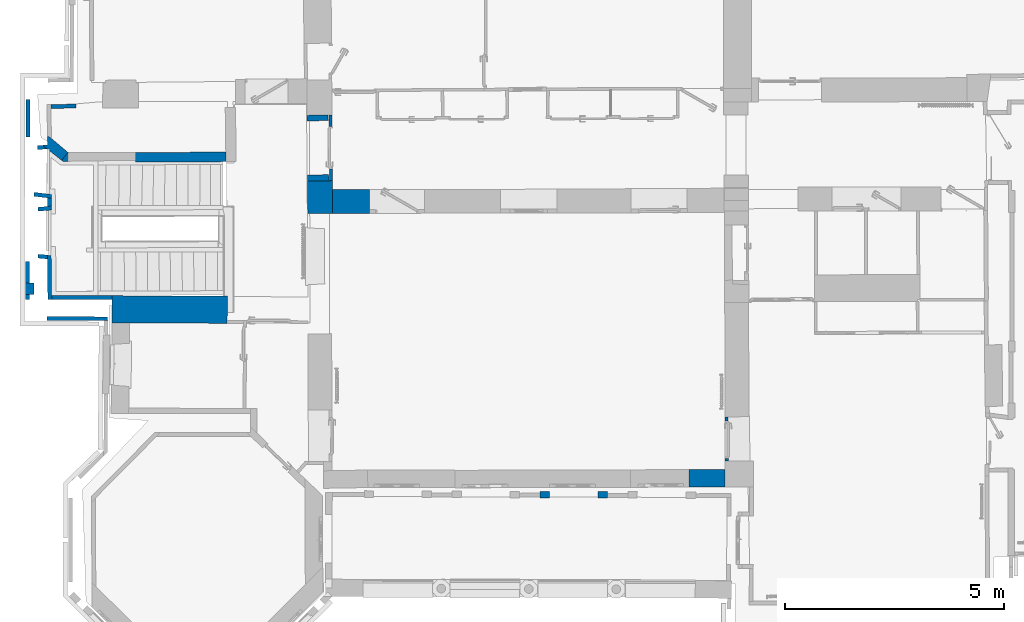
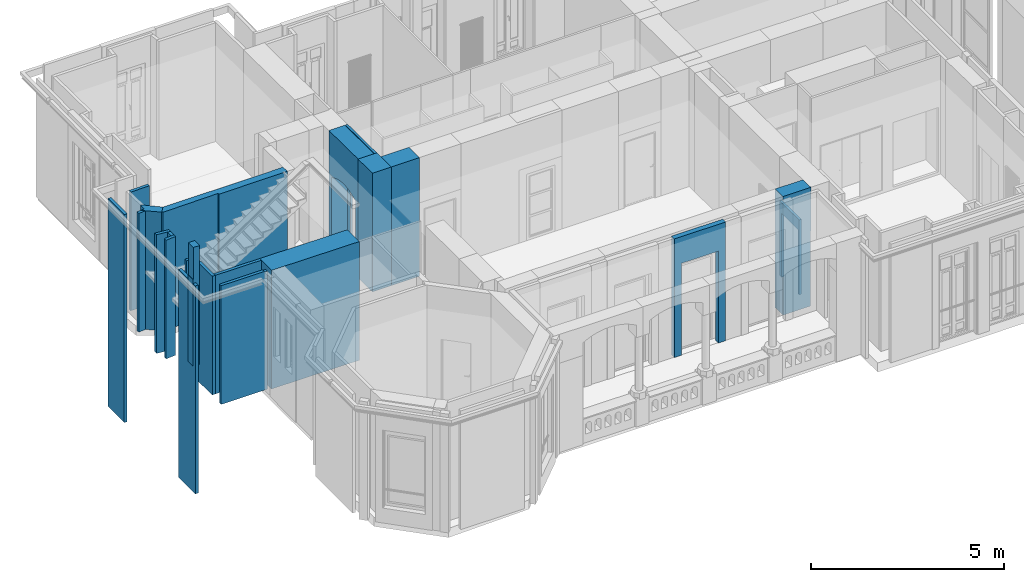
# One storey, part 7 of 66: 22 walls, 4 openings.
"""IFC2X3 building model written with IfcOpenShell, lengths in centimetres."""

import ifcopenshell
import ifcopenshell.guid

model = None  # the IFC model being written
_history = None  # IfcOwnerHistory: only IFC2X3 demands one
_inside = {}  # id of a spatial element -> (the spatial element, [elements in it])
_under = {}  # id of a project, library or spatial element -> (it, [spatial elements below it])
_declared = {}  # id of a project -> (the project, [libraries it declares])
_typed = {}  # id of a type object -> (the type object, [elements of that type])
_made_of = {}  # id of a material, layer set ... -> (it, [elements and type objects made of it])


def new_model(schema):
    """Start an empty IFC model of exactly this schema.

    Asked for "IFC4X3", IfcOpenShell would pick the latest addendum, in which some entities
    have other attributes; the version numbers below select the first issue.
    IFC2X3 requires an IfcOwnerHistory on every rooted entity: one is made here for all.
    """
    global model, _history
    if schema == "IFC4X3":
        model = ifcopenshell.file(schema_version=(4, 3, 0, 0))
    else:
        model = ifcopenshell.file(schema=schema)
    _inside.clear()
    _under.clear()
    _declared.clear()
    _typed.clear()
    _made_of.clear()
    _history = None
    if model.schema == "IFC2X3":
        org = make("IfcOrganization", Name="unknown")
        user = make(
            "IfcPersonAndOrganization",
            ThePerson=make("IfcPerson", FamilyName="unknown"),
            TheOrganization=org,
        )
        app = make(
            "IfcApplication",
            ApplicationDeveloper=org,
            Version="unknown",
            ApplicationFullName="unknown",
            ApplicationIdentifier="unknown",
        )
        _history = make(
            "IfcOwnerHistory",
            OwningUser=user,
            OwningApplication=app,
            ChangeAction="ADDED",
            CreationDate=0,
        )
    return model


def make(cls, **values):
    """One entity of the class cls with the attributes given. An attribute that is None is left unset."""
    return model.create_entity(
        cls, **{name: value for name, value in values.items() if value is not None}
    )


def entity(cls, *values):
    """Any entity or typed value of the class cls, its attributes in the order of the schema. None: left unset."""
    e = model.create_entity(cls)
    for i, value in enumerate(values):
        if value is not None:
            e[i] = value
    return e


def rooted(cls, **values):
    """An entity with a GlobalId (a new one), such as an element, a storey or a relation."""
    return make(cls, GlobalId=ifcopenshell.guid.new(), OwnerHistory=_history, **values)


def si_unit(unit_type, name, prefix=None):
    """IfcSIUnit, for example si_unit("LENGTHUNIT", "METRE", prefix="MILLI")."""
    return make("IfcSIUnit", UnitType=unit_type, Prefix=prefix, Name=name)


def converted_unit(unit_type, name, factor, base, dimensions=None, offset=None):
    """IfcConversionBasedUnit, such as the inch: factor (a typed value) times the base unit."""
    return make(
        "IfcConversionBasedUnit"
        if offset is None
        else "IfcConversionBasedUnitWithOffset",
        ConversionOffset=offset,
        Dimensions=None
        if dimensions is None
        else entity("IfcDimensionalExponents", *dimensions),
        UnitType=unit_type,
        Name=name,
        ConversionFactor=make(
            "IfcMeasureWithUnit", ValueComponent=factor, UnitComponent=base
        ),
    )


def assignment(units):
    """IfcUnitAssignment: the units of a project."""
    return None if units is None else make("IfcUnitAssignment", Units=units)


def point(xyz):
    """IfcCartesianPoint."""
    return None if xyz is None else make("IfcCartesianPoint", Coordinates=xyz)


def direction(xyz):
    """IfcDirection."""
    return None if xyz is None else make("IfcDirection", DirectionRatios=xyz)


def frame(location, z_axis=None, x_axis=None):
    """IfcAxis2Placement3D, a coordinate frame: its origin and axes. An axis left out is left unset."""
    return make(
        "IfcAxis2Placement3D",
        Location=point(location),
        Axis=direction(z_axis),
        RefDirection=direction(x_axis),
    )


def frame_2d(location, x_axis=None):
    """IfcAxis2Placement2D, a coordinate frame in the plane: its origin and x axis."""
    return make(
        "IfcAxis2Placement2D", Location=point(location), RefDirection=direction(x_axis)
    )


def origin():
    """The frame at (0, 0, 0) with its axes left unset."""
    return frame((0.0, 0.0, 0.0))


def origin_with_axes():
    """The frame at (0, 0, 0) with the z axis (0, 0, 1) and the x axis (1, 0, 0) written out."""
    return frame((0.0, 0.0, 0.0), z_axis=(0.0, 0.0, 1.0), x_axis=(1.0, 0.0, 0.0))


def origin_2d_with_axis():
    """The frame at (0, 0) in the plane with the x axis (1, 0) written out."""
    return frame_2d((0.0, 0.0), x_axis=(1.0, 0.0))


def place(relative_to, where):
    """IfcLocalPlacement: puts the frame where relative to a parent placement (None: the world)."""
    return make(
        "IfcLocalPlacement", PlacementRelTo=relative_to, RelativePlacement=where
    )


def context(
    kind, dimensions, precision=None, world=None, true_north=None, identifier=None
):
    """IfcGeometricRepresentationContext, for example the 3D "Model" context."""
    return make(
        "IfcGeometricRepresentationContext",
        ContextIdentifier=identifier,
        ContextType=kind,
        CoordinateSpaceDimension=dimensions,
        Precision=precision,
        WorldCoordinateSystem=world,
        TrueNorth=true_north,
    )


def subcontext(parent, identifier, kind, view, scale=None):
    """IfcGeometricRepresentationSubContext, for example "Body" below "Model"."""
    return make(
        "IfcGeometricRepresentationSubContext",
        ContextIdentifier=identifier,
        ContextType=kind,
        ParentContext=parent,
        TargetScale=scale,
        TargetView=view,
    )


def project(units=None, contexts=None):
    """IfcProject with its units and contexts."""
    return rooted(
        "IfcProject",
        Name="project",
        RepresentationContexts=contexts,
        UnitsInContext=assignment(units),
    )


def spatial(cls, under=None, at=None, **own):
    """A site, building, storey or space (cls), placed at a placement, below another one or the project."""
    s = rooted(cls, ObjectPlacement=at, **own)
    if under is not None:
        _under.setdefault(under.id(), (under, []))[1].append(s)
    return s


def polyline(points):
    """IfcPolyline through the points."""
    return make("IfcPolyline", Points=[point(p) for p in points])


def circle_curve(where, radius):
    """IfcCircle in the frame where."""
    return make("IfcCircle", Position=where, Radius=radius)


def trimmed(basis, trim1, trim2, sense, master):
    """IfcTrimmedCurve: the piece of a basis curve between two trims."""
    return make(
        "IfcTrimmedCurve",
        BasisCurve=basis,
        Trim1=trim1,
        Trim2=trim2,
        SenseAgreement=sense,
        MasterRepresentation=master,
    )


def segment(curve, same_sense, transition):
    """IfcCompositeCurveSegment."""
    return make(
        "IfcCompositeCurveSegment",
        Transition=transition,
        SameSense=same_sense,
        ParentCurve=curve,
    )


def composite_curve(segments, self_intersect=None):
    """IfcCompositeCurve: segments joined end to end."""
    return make("IfcCompositeCurve", Segments=segments, SelfIntersect=self_intersect)


def profile(cls, at=None, kind="AREA", **sizes):
    """A parametric profile (cls). Its sizes go by their IFC names, for example OverallWidth=200.0."""
    return make(cls, ProfileType=kind, Position=at, **sizes)


def rectangle(**sizes):
    """IfcRectangleProfileDef."""
    return profile("IfcRectangleProfileDef", **sizes)


def outline(outer, holes=None, kind="AREA"):
    """IfcArbitraryClosedProfileDef: a profile drawn as a closed curve; with holes, ...WithVoids."""
    if holes is None:
        return make("IfcArbitraryClosedProfileDef", ProfileType=kind, OuterCurve=outer)
    return make(
        "IfcArbitraryProfileDefWithVoids",
        ProfileType=kind,
        OuterCurve=outer,
        InnerCurves=holes,
    )


def extrude(swept, where, along, depth):
    """IfcExtrudedAreaSolid: the profile swept, set in the frame where, extruded along a direction by depth."""
    return make(
        "IfcExtrudedAreaSolid",
        SweptArea=swept,
        Position=where,
        ExtrudedDirection=direction(along),
        Depth=depth,
    )


def clip(a, b, op="DIFFERENCE"):
    """IfcBooleanClippingResult: the solid a cut by the half space b."""
    return make(
        "IfcBooleanClippingResult", Operator=op, FirstOperand=a, SecondOperand=b
    )


def bounded_halfspace(plane, agree, where, boundary):
    """IfcPolygonalBoundedHalfSpace: a half space limited to a polygon's prism."""
    return make(
        "IfcPolygonalBoundedHalfSpace",
        BaseSurface=make("IfcPlane", Position=plane),
        AgreementFlag=agree,
        Position=where,
        PolygonalBoundary=boundary,
    )


def shape(context_of_items, identifier, shape_type, items):
    """IfcShapeRepresentation: the items that make up one representation, for example the "Body"."""
    return make(
        "IfcShapeRepresentation",
        ContextOfItems=context_of_items,
        RepresentationIdentifier=identifier,
        RepresentationType=shape_type,
        Items=items,
    )


def material(Name=None, Category=None):
    """IfcMaterial."""
    return make("IfcMaterial", Name=Name, Category=Category)


def layer(
    of_material, thickness, ventilated=None, Name=None, Category=None, Priority=None
):
    """IfcMaterialLayer: one layer of a wall or slab, of a material (None: an air gap)."""
    return make(
        "IfcMaterialLayer",
        Material=of_material,
        LayerThickness=thickness,
        IsVentilated=ventilated,
        Name=Name,
        Category=Category,
        Priority=Priority,
    )


def layer_set(layers, Name=None):
    """IfcMaterialLayerSet."""
    return make("IfcMaterialLayerSet", MaterialLayers=layers, LayerSetName=Name)


def layer_usage(for_layer_set, set_direction, sense, offset, extent=None):
    """IfcMaterialLayerSetUsage: how a layer set lies in its element."""
    return make(
        "IfcMaterialLayerSetUsage",
        ForLayerSet=for_layer_set,
        LayerSetDirection=set_direction,
        DirectionSense=sense,
        OffsetFromReferenceLine=offset,
        ReferenceExtent=extent,
    )


def made_of(thing, what):
    """Note that an element or type object is made of a material, layer set ...; save() writes the relation."""
    if what is not None:
        _made_of.setdefault(what.id(), (what, []))[1].append(thing)
    return thing


def type_object(cls, material=None, **own):
    """A type object (cls), such as IfcWallType, which elements share."""
    return made_of(rooted(cls, **own), material)


def element(
    cls,
    number,
    at=None,
    inside=None,
    cuts=None,
    type_object=None,
    material=None,
    context=None,
    identifier="Body",
    shape_type=None,
    held_by="IfcProductDefinitionShape",
    body=None,
    shapes=None,
    **own,
):
    """One element of the class cls, such as IfcWall. Its Tag is "e" and its number.

    at: its placement. inside: the storey or other place that contains it. cuts: it is an
    opening in that element (IfcRelVoidsElement). A single representation is given by context,
    identifier, shape_type and body (its items); several are given by shapes. held_by: the class
    of the entity that holds the representations. save() writes the other relations.
    """
    e = rooted(cls, Tag="e%d" % number, ObjectPlacement=at, **own)
    if body is not None:
        shapes = [shape(context, identifier, shape_type, body)]
    if shapes is not None:
        e.Representation = make(held_by, Representations=shapes)
    if inside is not None:
        _inside.setdefault(inside.id(), (inside, []))[1].append(e)
    if cuts is not None:
        rooted(
            "IfcRelVoidsElement", RelatingBuildingElement=cuts, RelatedOpeningElement=e
        )
    if type_object is not None:
        _typed.setdefault(type_object.id(), (type_object, []))[1].append(e)
    return made_of(e, material)


def aggregate(whole, parts):
    """IfcRelAggregates: a whole, such as a stair, and the parts it consists of."""
    return rooted("IfcRelAggregates", RelatingObject=whole, RelatedObjects=parts)


def save(model, path):
    """Write the relations noted so far, then the file.

    IfcRelAggregates (storeys below a building ...), IfcRelContainedInSpatialStructure (elements
    in a storey), IfcRelDefinesByType, IfcRelAssociatesMaterial and IfcRelDeclares: one each for
    every whole, place, type object, material and project.
    """
    for whole, parts in _under.values():
        aggregate(whole, parts)
    for where, things in _inside.values():
        rooted(
            "IfcRelContainedInSpatialStructure",
            RelatedElements=things,
            RelatingStructure=where,
        )
    for kind, things in _typed.values():
        rooted("IfcRelDefinesByType", RelatedObjects=things, RelatingType=kind)
    for what, things in _made_of.values():
        rooted("IfcRelAssociatesMaterial", RelatedObjects=things, RelatingMaterial=what)
    for by, libraries in _declared.values():
        rooted("IfcRelDeclares", RelatingContext=by, RelatedDefinitions=libraries)
    model.write(path)


model = new_model("IFC2X3")

# Units and contexts
model_context = context("Model", 3, precision=0.0001, world=origin(), true_north=direction((0.225632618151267, 0.974212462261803, 0.0)))
body_context = subcontext(model_context, "Body", "Model", "MODEL_VIEW")
footprint_context = subcontext(model_context, "FootPrint", "Model", "MODEL_VIEW")
profile_context = subcontext(model_context, "Profile", "Model", "MODEL_VIEW")
ifc_project = project(units=[si_unit("LENGTHUNIT", "METRE", prefix="CENTI"), si_unit("AREAUNIT", "SQUARE_METRE", prefix="CENTI"), si_unit("VOLUMEUNIT", "CUBIC_METRE", prefix="CENTI"), converted_unit("PLANEANGLEUNIT", "DEGREE", entity("IfcRatioMeasure", 0.0174532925), si_unit("PLANEANGLEUNIT", "RADIAN"), dimensions=[0, 0, 0, 0, 0, 0, 0])], contexts=[model_context])

# Site, building, storey
site_placement = place(None, origin_with_axes())
site = spatial("IfcSite", under=ifc_project, at=site_placement, Name="Default Site", CompositionType="ELEMENT")
building_placement = place(site_placement, origin_with_axes())
building = spatial("IfcBuilding", under=site, at=building_placement, Name="Default Building", CompositionType="ELEMENT")
storey_placement = place(building_placement, frame((0.0, 0.0, 477.795358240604), z_axis=(0.0, 0.0, 1.0), x_axis=(1.0, 0.0, 0.0)))
storey = spatial("IfcBuildingStorey", under=building, at=storey_placement, Name="Niveau 1", CompositionType="ELEMENT", Elevation=477.795358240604)

# Walls
ifc_material = material(Name="<aucun>")
ifc_layer_1 = layer(ifc_material, 26.0)
ifc_layer_set_1 = layer_set([ifc_layer_1], Name="default")
ifc_layer_usage_1 = layer_usage(ifc_layer_set_1, "AXIS2", "POSITIVE", -13.0)
wall_type_1 = type_object("IfcWallType", Name="default 260", PredefinedType="NOTDEFINED", material=ifc_layer_set_1)
wall_1_placement = place(storey_placement, frame((-1359.57118546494, -267.78042573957, 101.671495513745), z_axis=(0.0, 0.0, 1.0), x_axis=(1.0, 0.0, 0.0)))
element("IfcWallStandardCase", 1, at=wall_1_placement, inside=storey, type_object=wall_type_1, material=ifc_layer_usage_1, Name="Enveloppe 2049972", context=body_context, shape_type="Clipping", body=[
    clip(extrude(rectangle(XDim=26.0001334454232, YDim=19.9998379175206, at=origin_2d_with_axis()), frame((10.0000810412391, 6.67227116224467e-05, 0.0), z_axis=(0.0, 0.0, 1.0), x_axis=(0.0, 1.0, 0.0)), (0.0, 0.0, 1.0), 376.102165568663), bounded_halfspace(frame((0.0, -13.0, 274.443520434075), z_axis=(0.0, 0.0, -1.0), x_axis=(1.0, 0.0, 0.0)), True, frame((0.0, -13.0, 274.443520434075), z_axis=(0.0, 0.0, 1.0), x_axis=(1.0, 0.0, 0.0)), polyline([(0.0, 0.0), (1.12934370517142, 0.0), (1.1616053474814, 26.0), (0.0, 26.0), (0.0, 0.0)]))),
])
ifc_layer_2 = layer(ifc_material, 9.0)
ifc_layer_set_2 = layer_set([ifc_layer_2], Name="default")
ifc_layer_usage_2 = layer_usage(ifc_layer_set_2, "AXIS2", "POSITIVE", -4.5)
wall_type_2 = type_object("IfcWallType", Name="default 90", PredefinedType="NOTDEFINED", material=ifc_layer_set_2)
wall_2_placement = place(storey_placement, frame((-1141.69687932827, -288.646766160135, 0.0128503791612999), z_axis=(0.0, 0.0, 1.0), x_axis=(-0.999992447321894, 0.00388655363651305, 0.0)))
element("IfcWallStandardCase", 2, at=wall_2_placement, inside=storey, type_object=wall_type_2, material=ifc_layer_usage_2, Name="Enveloppe 414974", context=body_context, shape_type="SweptSolid", body=[
    extrude(outline(polyline([(157.807830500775, -4.50000000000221), (157.653888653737, 4.49999999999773), (19.9984069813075, 4.49999999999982), (19.9984069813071, -4.50000000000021), (157.807830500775, -4.50000000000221)])), frame((0.0, 0.0, -8.88178419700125e-14), z_axis=(0.0, 0.0, 1.0), x_axis=(1.0, 0.0, 0.0)), (0.0, 0.0, 1.0), 376.102165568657),
])
ifc_layer_usage_3 = layer_usage(ifc_layer_set_2, "AXIS2", "POSITIVE", -4.5)
wall_3_placement = place(storey_placement, frame((-1303.98623578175, -283.547523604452, 0.0128503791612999), z_axis=(0.0, 0.0, 1.0), x_axis=(-0.0132160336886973, 0.999912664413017, 0.0)))
element("IfcWallStandardCase", 3, at=wall_3_placement, inside=storey, type_object=wall_type_2, material=ifc_layer_usage_3, Name="Enveloppe 603705", context=body_context, shape_type="SweptSolid", body=[
    extrude(outline(polyline([(83.3478492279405, 4.50000000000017), (-8.89279868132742, 4.50000000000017), (-9.04674052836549, -4.49999999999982), (91.4194505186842, -4.49999999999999), (92.2947717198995, 3.52399901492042), (83.3478492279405, 4.50000000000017)])), frame((0.0, 0.0, -1.77635683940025e-13), z_axis=(0.0, 0.0, 1.0), x_axis=(1.0, 0.0, 0.0)), (0.0, 0.0, 1.0), 376.102165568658),
])
ifc_layer_usage_4 = layer_usage(ifc_layer_set_2, "AXIS2", "POSITIVE", -4.5)
wall_4_placement = place(storey_placement, frame((-1339.0188454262, -87.5994594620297, 0.0128503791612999), z_axis=(0.0, 0.0, 1.0), x_axis=(0.995823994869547, 0.0912938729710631, 0.0)))
element("IfcWallStandardCase", 4, at=wall_4_placement, inside=storey, type_object=wall_type_2, material=ifc_layer_usage_4, Name="Enveloppe 603803", context=body_context, shape_type="SweptSolid", body=[
    extrude(outline(polyline([(8.7230879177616, 4.50000000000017), (7.94370649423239, -4.49999999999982), (38.4466077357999, -4.49999999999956), (39.2324875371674, 4.50000000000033), (8.7230879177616, 4.50000000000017)])), frame((0.0, 0.0, -3.5527136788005e-13), z_axis=(0.0, 0.0, 1.0), x_axis=(1.0, 0.0, 0.0)), (0.0, 0.0, 1.0), 376.102165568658),
])
ifc_layer_usage_5 = layer_usage(ifc_layer_set_2, "AXIS2", "POSITIVE", -4.5)
wall_5_placement = place(storey_placement, frame((-1301.12366778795, -196.556105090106, 0.0128503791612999), z_axis=(0.0, 0.0, 1.0), x_axis=(-0.995448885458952, 0.0952969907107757, 0.0)))
element("IfcWallStandardCase", 5, at=wall_5_placement, inside=storey, type_object=wall_type_2, material=ifc_layer_usage_5, Name="Enveloppe 603704", context=body_context, shape_type="SweptSolid", body=[
    extrude(rectangle(XDim=8.99999999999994, YDim=21.5726947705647, at=origin_2d_with_axis()), frame((18.8579486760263, -4.44089209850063e-14, 8.88178419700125e-14), z_axis=(0.0, 0.0, 1.0), x_axis=(-2.0122792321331e-14, -1.0, 0.0)), (0.0, 0.0, 1.0), 376.102165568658),
])
ifc_layer_usage_6 = layer_usage(ifc_layer_set_2, "AXIS2", "POSITIVE", -4.5)
wall_6_placement = place(storey_placement, frame((-1301.00789966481, -57.2487203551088, 0.0128503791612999), z_axis=(0.0, 0.0, 1.0), x_axis=(-0.993007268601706, 0.118053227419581, 0.0)))
element("IfcWallStandardCase", 6, at=wall_6_placement, inside=storey, type_object=wall_type_2, material=ifc_layer_usage_6, Name="Enveloppe 604055", context=body_context, shape_type="SweptSolid", body=[
    extrude(outline(polyline([(39.716668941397, -4.49999999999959), (38.6006904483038, 4.50000000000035), (-1.10943030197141, 4.49999999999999), (0.0, -4.49999999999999), (39.716668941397, -4.49999999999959)])), frame((0.0, 0.0, -2.66453525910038e-13), z_axis=(0.0, 0.0, 1.0), x_axis=(1.0, 0.0, 0.0)), (0.0, 0.0, 1.0), 376.102165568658),
])
ifc_layer_usage_7 = layer_usage(ifc_layer_set_2, "AXIS2", "POSITIVE", -4.5)
wall_7_placement = place(storey_placement, frame((-1304.8219264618, -88.5901771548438, 0.0128503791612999), z_axis=(0.0, 0.0, 1.0), x_axis=(-0.00432209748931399, 0.999990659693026, 0.0)))
element("IfcWallStandardCase", 7, at=wall_7_placement, inside=storey, type_object=wall_type_2, material=ifc_layer_usage_7, Name="Enveloppe 604739", context=body_context, shape_type="SweptSolid", body=[
    extrude(outline(polyline([(27.8321827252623, 4.49999999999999), (8.24836654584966, 4.50000000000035), (9.03424634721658, -4.50000000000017), (26.7227524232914, -4.50000000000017), (27.8321827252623, 4.49999999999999)])), frame((0.0, 0.0, -1.77635683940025e-13), z_axis=(0.0, 0.0, 1.0), x_axis=(1.0, 0.0, 0.0)), (0.0, 0.0, 1.0), 376.102165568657),
])
ifc_layer_usage_8 = layer_usage(ifc_layer_set_2, "AXIS2", "POSITIVE", -4.5)
wall_8_placement = place(storey_placement, frame((-1340.36904106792, 52.7879627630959, 0.0128503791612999), z_axis=(0.0, 0.0, 1.0), x_axis=(0.995424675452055, 0.0955495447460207, 0.0)))
element("IfcWallStandardCase", 8, at=wall_8_placement, inside=storey, type_object=wall_type_2, material=ifc_layer_usage_8, Name="Enveloppe 604054", context=body_context, shape_type="SweptSolid", body=[
    extrude(outline(polyline([(8.5729394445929, 4.49999999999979), (8.57293944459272, -4.50000000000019), (29.7159289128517, -4.50000000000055), (20.2996531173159, 4.49999999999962), (8.5729394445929, 4.49999999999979)])), frame((0.0, 0.0, -3.5527136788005e-13), z_axis=(0.0, 0.0, 1.0), x_axis=(1.0, 0.0, 0.0)), (0.0, 0.0, 1.0), 376.102165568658),
])
ifc_layer_usage_9 = layer_usage(ifc_layer_set_2, "AXIS2", "POSITIVE", -4.5)
wall_9_placement = place(storey_placement, frame((-1321.60427819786, 147.204743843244, 0.0128503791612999), z_axis=(0.0, 0.0, 1.0), x_axis=(0.999790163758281, 0.020484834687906, 0.0)))
element("IfcWallStandardCase", 9, at=wall_9_placement, inside=storey, type_object=wall_type_2, material=ifc_layer_usage_9, Name="Enveloppe 116176", context=body_context, shape_type="SweptSolid", body=[
    extrude(outline(polyline([(20.4569200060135, 4.49974386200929), (20.3914920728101, -4.50000000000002), (77.2788232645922, -4.50000000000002), (77.2788232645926, 4.49812676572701), (20.4569200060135, 4.49974386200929)])), frame((0.0, 0.0, -8.88178419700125e-14), z_axis=(0.0, 0.0, 1.0), x_axis=(1.0, 0.0, 0.0)), (0.0, 0.0, 1.0), 376.102165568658),
])

# Wall, opening
ifc_layer_3 = layer(ifc_material, 7.0)
ifc_layer_set_3 = layer_set([ifc_layer_3], Name="default")
ifc_layer_usage_10 = layer_usage(ifc_layer_set_3, "AXIS2", "POSITIVE", -3.5)
wall_type_3 = type_object("IfcWallType", Name="default 70", PredefinedType="NOTDEFINED", material=ifc_layer_set_3)
wall_10_placement = place(storey_placement, frame((240.918129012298, -661.429165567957, 0.0128503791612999), z_axis=(0.0, 0.0, 1.0), x_axis=(-0.00303669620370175, 0.999995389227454, 0.0)))
wall_10 = element("IfcWallStandardCase", 10, at=wall_10_placement, inside=storey, type_object=wall_type_3, material=ifc_layer_usage_10, Name="Enveloppe 121320", context=body_context, shape_type="SweptSolid", body=[
    extrude(outline(polyline([(100.55219476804, 3.49999999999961), (4.44089209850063e-13, 3.49999999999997), (-0.0223322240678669, -3.50000109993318), (100.552194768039, -3.50000000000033), (100.55219476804, 3.49999999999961)])), frame((0.0, 0.0, -3.5527136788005e-13), z_axis=(0.0, 0.0, 1.0), x_axis=(1.0, 0.0, 0.0)), (0.0, 0.0, 1.0), 237.0),
])
opening_1_placement = place(wall_10_placement, frame((5.9208299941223, 2.8421709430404e-14, -2.66453525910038e-13), z_axis=(0.0, 0.0, 1.0), x_axis=(-1.0, 3.53666748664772e-15, 0.0)))
cartesian_point_1 = entity("IfcCartesianPoint", [0.0, 4.44089209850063e-14, 203.5])
cartesian_point_2 = entity("IfcCartesianPoint", [-85.1039051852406, -3.49999999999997])
element("IfcOpeningElement", 11, at=opening_1_placement, cuts=wall_10, Name="4294966410_11", ObjectType="Opening", shapes=[
    shape(body_context, "Body", "SweptSolid", [extrude(outline(polyline([(-8.88178419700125e-14, 203.5), (-8.88178419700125e-14, -8.88178419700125e-14), (85.1039051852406, -8.88178419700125e-14), (85.1039051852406, 203.5), (-8.88178419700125e-14, 203.5)])), frame((0.0, -13.5, 0.0), z_axis=(0.0, 1.0, 0.0), x_axis=(-1.0, 0.0, 0.0)), (0.0, 0.0, 1.0), 27.0)]),
    shape(profile_context, "Profile", "GeometricCurveSet", [entity("IfcGeometricCurveSet", [entity("IfcPolyline", [cartesian_point_1, entity("IfcCartesianPoint", [0.0, 4.44089209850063e-14, -8.88178419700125e-14]), entity("IfcCartesianPoint", [-85.1039051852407, 4.44089209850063e-14, -8.88178419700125e-14]), entity("IfcCartesianPoint", [-85.1039051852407, 4.44089209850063e-14, 203.5]), cartesian_point_1])])]),
    shape(footprint_context, "FootPrint", "GeometricCurveSet", [entity("IfcGeometricCurveSet", [entity("IfcPolyline", [cartesian_point_2, entity("IfcCartesianPoint", [8.88178419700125e-14, -3.49999999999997]), entity("IfcCartesianPoint", [0.0, 3.50000000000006]), entity("IfcCartesianPoint", [-85.1039051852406, 3.50000000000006]), cartesian_point_2])])]),
])

ifc_layer_usage_11 = layer_usage(ifc_layer_set_3, "AXIS2", "POSITIVE", -3.5)
wall_11_placement = place(storey_placement, frame((-662.459268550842, -21.7210707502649, 0.0128503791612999), z_axis=(0.0, 0.0, 1.0), x_axis=(-0.00669397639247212, 0.999977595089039, 0.0)))
wall_11 = element("IfcWallStandardCase", 12, at=wall_11_placement, inside=storey, type_object=wall_type_3, material=ifc_layer_usage_11, Name="Enveloppe 119134", context=body_context, shape_type="SweptSolid", body=[
    extrude(rectangle(XDim=6.99999999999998, YDim=149.713744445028, at=origin_2d_with_axis()), frame((74.9897366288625, 1.77635683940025e-13, 2.66453525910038e-13), z_axis=(0.0, 0.0, 1.0), x_axis=(0.0, -1.0, 0.0)), (0.0, 0.0, 1.0), 376.102165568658),
])
opening_2_placement = place(wall_11_placement, frame((26.815613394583, 1.13686837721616e-13, 3.5527136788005e-13), z_axis=(0.0, 0.0, 1.0), x_axis=(1.0, -1.24032728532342e-16, 0.0)))
cartesian_point_3 = entity("IfcCartesianPoint", [2.22044604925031e-14, 0.0, 207.5])
cartesian_point_4 = entity("IfcCartesianPoint", [97.0, 3.49999999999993])
element("IfcOpeningElement", 13, at=opening_2_placement, cuts=wall_11, Name="4294966391_11", ObjectType="Opening", shapes=[
    shape(body_context, "Body", "SweptSolid", [extrude(outline(polyline([(2.22044604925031e-14, 207.5), (0.0, 8.88178419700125e-14), (97.0, 8.88178419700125e-14), (97.0, 207.5), (2.22044604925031e-14, 207.5)])), frame((0.0, 13.5, 0.0), z_axis=(0.0, -1.0, 0.0), x_axis=(1.0, 0.0, 0.0)), (0.0, 0.0, 1.0), 27.0)]),
    shape(profile_context, "Profile", "GeometricCurveSet", [entity("IfcGeometricCurveSet", [entity("IfcPolyline", [cartesian_point_3, entity("IfcCartesianPoint", [0.0, 0.0, 8.88178419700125e-14]), entity("IfcCartesianPoint", [97.0, 0.0, 8.88178419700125e-14]), entity("IfcCartesianPoint", [97.0, 0.0, 207.5]), cartesian_point_3])])]),
    shape(footprint_context, "FootPrint", "GeometricCurveSet", [entity("IfcGeometricCurveSet", [entity("IfcPolyline", [cartesian_point_4, entity("IfcCartesianPoint", [0.0, 3.49999999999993]), entity("IfcCartesianPoint", [0.0, -3.50000000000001]), entity("IfcCartesianPoint", [97.0, -3.5000000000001]), cartesian_point_4])])]),
])

# Walls
ifc_layer_4 = layer(ifc_material, 40.0)
ifc_layer_set_4 = layer_set([ifc_layer_4], Name="default")
ifc_layer_usage_12 = layer_usage(ifc_layer_set_4, "AXIS2", "POSITIVE", -20.0)
wall_type_4 = type_object("IfcWallType", Name="default 400", PredefinedType="NOTDEFINED", material=ifc_layer_set_4)
wall_12_placement = place(storey_placement, frame((237.440888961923, -700.439799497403, 0.0128503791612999), z_axis=(0.0, 0.0, 1.0), x_axis=(-0.999999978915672, 0.000205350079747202, 0.0)))
element("IfcWallStandardCase", 14, at=wall_12_placement, inside=storey, type_object=wall_type_4, material=ifc_layer_usage_12, Name="Enveloppe 93783", context=body_context, shape_type="Clipping", body=[
    clip(extrude(outline(polyline([(82.9408851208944, -19.9999999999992), (82.4797134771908, 19.9999999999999), (-1.09533927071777, 19.9999971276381), (-0.350517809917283, -20.000086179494), (82.9408851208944, -19.9999999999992)])), frame((0.0, 0.0, -8.88178419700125e-14), z_axis=(0.0, 0.0, 1.0), x_axis=(1.0, 0.0, 0.0)), (0.0, 0.0, 1.0), 376.102165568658), bounded_halfspace(frame((0.0691532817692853, -19.9999999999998, 237.0), z_axis=(0.0, 0.0, 1.0), x_axis=(-1.0, -5.8401739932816e-13, 0.0)), True, frame((0.0691532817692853, -19.9999999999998, 237.0), z_axis=(0.0, 0.0, 1.0), x_axis=(1.0, 0.0, 0.0)), polyline([(-1.16449255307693, 39.9999999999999), (0.0, 39.9999999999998), (0.0, 0.0), (-0.419671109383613, 8.88178419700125e-14), (-1.16449255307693, 39.9999999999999)]))),
])
ifc_layer_5 = layer(ifc_material, 62.0)
ifc_layer_set_5 = layer_set([ifc_layer_5], Name="default")
ifc_layer_usage_13 = layer_usage(ifc_layer_set_5, "AXIS2", "POSITIVE", -31.0)
wall_type_5 = type_object("IfcWallType", Name="default 620", PredefinedType="NOTDEFINED", material=ifc_layer_set_5)
wall_13_placement = place(storey_placement, frame((-898.889527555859, -316.090657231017, 0.0128503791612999), z_axis=(0.0, 0.0, 1.0), x_axis=(-0.999992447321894, 0.00388655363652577, 0.0)))
element("IfcWallStandardCase", 15, at=wall_13_placement, inside=storey, type_object=wall_type_5, material=ifc_layer_usage_13, Name="Enveloppe 94845", context=body_context, shape_type="SweptSolid", body=[
    extrude(outline(polyline([(263.055849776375, 30.9999999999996), (3.5527136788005e-13, 31.0), (0.0, -31.0), (262.910587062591, -31.0000000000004), (262.910587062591, -22.0000000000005), (262.810588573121, -22.0003886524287), (263.055849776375, 30.9999999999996)])), frame((0.0, 0.0, -1.77635683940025e-13), z_axis=(0.0, 0.0, 1.0), x_axis=(1.0, 0.0, 0.0)), (0.0, 0.0, 1.0), 376.102165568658),
])
ifc_layer_6 = layer(ifc_material, 23.0)
ifc_layer_set_6 = layer_set([ifc_layer_6], Name="default")
ifc_layer_usage_14 = layer_usage(ifc_layer_set_6, "AXIS2", "POSITIVE", -11.5)
wall_type_6 = type_object("IfcWallType", Name="default 230", PredefinedType="NOTDEFINED", material=ifc_layer_set_6)
wall_14_placement = place(storey_placement, frame((-1267.07905422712, 31.7008944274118, 0.0128503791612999), z_axis=(0.0, 0.0, 1.0), x_axis=(-0.785617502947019, 0.618712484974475, 0.0)))
element("IfcWallStandardCase", 16, at=wall_14_placement, inside=storey, type_object=wall_type_6, material=ifc_layer_usage_14, Name="Enveloppe 94355", context=body_context, shape_type="SweptSolid", body=[
    extrude(outline(polyline([(59.0592628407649, 11.5), (3.45517816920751, 11.4999999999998), (3.45517816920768, -10.4207086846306), (1.94554119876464, -11.6209252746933), (3.45517816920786, -11.6209252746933), (51.3019333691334, -13.2954791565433), (60.5622369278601, -13.2954791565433), (62.7810982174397, -11.5000000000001), (50.6633105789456, 3.47521695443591), (59.0592628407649, 11.5)])), frame((0.0, 0.0, -8.88178419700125e-14), z_axis=(0.0, 0.0, 1.0), x_axis=(1.0, 0.0, 0.0)), (0.0, 0.0, 1.0), 376.102165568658),
])
ifc_layer_usage_15 = layer_usage(ifc_layer_set_2, "AXIS2", "POSITIVE", -4.5)
wall_type_7 = type_object("IfcWallType", Name="default 90", PredefinedType="NOTDEFINED", material=ifc_layer_set_2)
wall_15_placement = place(storey_placement, frame((-1180.58137582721, -336.629359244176, 0.0128503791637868), z_axis=(0.0, 0.0, 1.0), x_axis=(-0.999998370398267, 0.0018053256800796, 0.0)))
element("IfcWallStandardCase", 17, at=wall_15_placement, inside=storey, type_object=wall_type_7, material=ifc_layer_usage_15, Name="Enveloppe 423114", context=body_context, shape_type="Clipping", body=[
    clip(extrude(outline(polyline([(129.58204715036, 4.5000000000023), (-8.98575937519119, 4.49999999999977), (-8.64937980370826, -4.50000000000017), (129.582047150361, -4.49999999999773), (129.58204715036, 4.5000000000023)])), frame((0.0, 0.0, -2.8421709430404e-12), z_axis=(0.0, 0.0, 1.0), x_axis=(1.0, 0.0, 0.0)), (0.0, 0.0, 1.0), 376.102165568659), bounded_halfspace(frame((-8.64937980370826, -4.50000000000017, 374.102165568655), z_axis=(0.0, 0.0, -1.0), x_axis=(1.0, 1.82015860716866e-14, 0.0)), True, frame((-8.64937980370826, -4.50000000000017, 374.102165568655), z_axis=(0.0, 0.0, 1.0), x_axis=(1.0, 0.0, 0.0)), polyline([(-0.336379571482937, 8.9999999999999), (0.0, 0.0), (8.64937980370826, 2.22044604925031e-13), (8.64937980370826, 9.00000000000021), (-0.336379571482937, 8.9999999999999)]))),
])
ifc_layer_usage_16 = layer_usage(ifc_layer_set_2, "AXIS2", "POSITIVE", -4.5)
wall_16_placement = place(storey_placement, frame((-1353.87895542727, 78.2880646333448, -295.0), z_axis=(0.0, 0.0, 1.0), x_axis=(0.00469707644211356, 0.999988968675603, 0.0)))
element("IfcWallStandardCase", 18, at=wall_16_placement, inside=storey, type_object=wall_type_7, material=ifc_layer_usage_16, Name="Enveloppe 408091", context=body_context, shape_type="Clipping", body=[
    clip(extrude(rectangle(XDim=84.9569595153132, YDim=8.99958552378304, at=origin_2d_with_axis()), frame((42.4784807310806, -0.000207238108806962, -2.22044604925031e-14), z_axis=(0.0, 0.0, 1.0), x_axis=(1.0, -1.81972492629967e-15, 0.0)), (0.0, 0.0, 1.0), 659.115015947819), bounded_halfspace(frame((0.0882422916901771, -4.49999999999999, 1.20464175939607), z_axis=(0.0, 0.0, -1.0), x_axis=(4.93442092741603e-15, 1.0, 0.0)), True, frame((0.0882422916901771, -4.49999999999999, 1.20464175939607), z_axis=(0.0, 0.0, 1.0), x_axis=(1.0, 0.0, 0.0)), polyline([(-0.0882422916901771, -3.5527136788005e-13), (0.0, 0.0), (4.44089209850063e-14, 8.99999999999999), (-0.0882422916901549, 8.99999999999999), (-0.0882422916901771, -3.5527136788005e-13)]))),
])
ifc_layer_usage_17 = layer_usage(ifc_layer_set_2, "AXIS2", "POSITIVE", -4.5)
wall_17_placement = place(storey_placement, frame((-1355.07140144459, -293.278150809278, -295.0), z_axis=(0.0, 0.0, 1.0), x_axis=(1.48272692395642e-05, 0.999999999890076, 0.0)))
element("IfcWallStandardCase", 19, at=wall_17_placement, inside=storey, type_object=wall_type_7, material=ifc_layer_usage_17, Name="Enveloppe 414209", context=body_context, shape_type="Clipping", body=[
    clip(clip(clip(extrude(outline(polyline([(87.5324694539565, 4.49999999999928), (25.4977420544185, 4.50000000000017), (0.0935092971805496, 4.49962332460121), (0.0936427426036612, -4.50037667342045), (25.4978754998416, -4.49999999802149), (87.5326028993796, -4.49999999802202), (87.5324694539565, 4.49999999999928)])), frame((0.0, 0.0, -1.77635683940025e-13), z_axis=(0.0, 0.0, 1.0), x_axis=(1.0, 0.0, 0.0)), (0.0, 0.0, 1.0), 659.11501594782), bounded_halfspace(frame((12.4977917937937, -4.49999999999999, 396.671495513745), z_axis=(0.0, 0.0, -1.0), x_axis=(1.0, 5.17383817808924e-15, 0.0)), True, frame((12.4977917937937, -4.49999999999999, 396.671495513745), z_axis=(0.0, 0.0, 1.0), x_axis=(1.0, 0.0, 0.0)), polyline([(4.44089209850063e-14, 1.77635683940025e-13), (12.9999332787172, 1.77635683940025e-13), (12.9999332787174, 9.00000000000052), (-0.000133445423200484, 9.00000000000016), (4.44089209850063e-14, 1.77635683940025e-13)]))), bounded_halfspace(frame((87.4324694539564, -4.5000000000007, 1.20464175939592), z_axis=(0.0, 0.0, -1.0), x_axis=(1.0, 2.6750193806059e-12, 0.0)), True, frame((87.4324694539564, -4.5000000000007, 1.20464175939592), z_axis=(0.0, 0.0, 1.0), x_axis=(1.0, 0.0, 0.0)), polyline([(-4.44089209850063e-14, 0.0), (0.099999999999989, 1.77635683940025e-13), (0.100000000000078, 8.99999999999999), (1.33226762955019e-13, 9.00000000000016), (-4.44089209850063e-14, 0.0)]))), bounded_halfspace(frame((25.4977420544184, -4.50000000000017, 396.671495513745), z_axis=(0.0, 0.0, -1.0), x_axis=(1.0, -5.45788051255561e-15, 0.0)), True, frame((25.4977420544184, -4.50000000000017, 396.671495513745), z_axis=(0.0, 0.0, 1.0), x_axis=(1.0, 0.0, 0.0)), polyline([(-4.44089209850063e-14, 0.0), (13.0000497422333, 0.0), (12.9999162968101, 9.00000000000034), (4.44089209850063e-14, 9.00000000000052), (-4.44089209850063e-14, 0.0)]))),
])

# Wall, opening
ifc_layer_7 = layer(ifc_material, 15.0)
ifc_layer_set_7 = layer_set([ifc_layer_7], Name="default")
ifc_layer_usage_18 = layer_usage(ifc_layer_set_7, "AXIS2", "POSITIVE", -7.5)
wall_type_8 = type_object("IfcWallType", Name="default 150", PredefinedType="NOTDEFINED", material=ifc_layer_set_7)
wall_18_placement = place(storey_placement, frame((-31.345424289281, -738.514775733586, 0.0128503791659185), z_axis=(0.0, 0.0, 1.0), x_axis=(-0.999992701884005, 0.00382049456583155, 0.0)))
wall_18 = element("IfcWallStandardCase", 20, at=wall_18_placement, inside=storey, type_object=wall_type_8, material=ifc_layer_usage_18, Name="Enveloppe 426075", context=body_context, shape_type="SweptSolid", body=[
    extrude(rectangle(XDim=14.9999999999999, YDim=153.662905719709, at=origin_2d_with_axis()), frame((76.8314528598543, 0.0, 0.0), z_axis=(0.0, 0.0, 1.0), x_axis=(-3.92914867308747e-16, -1.0, 0.0)), (0.0, 0.0, 1.0), 376.102165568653),
])
opening_3_placement = place(wall_18_placement, frame((21.6994859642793, -1.13686837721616e-13, 0.0), z_axis=(0.0, 0.0, 1.0), x_axis=(1.0, -3.52148865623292e-16, 0.0)))
cartesian_point_5 = entity("IfcCartesianPoint", [1.11022302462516e-14, 0.0, 291.300284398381])
cartesian_point_6 = entity("IfcCartesianPoint", [110.796722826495, 7.50000000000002])
element("IfcOpeningElement", 21, at=opening_3_placement, cuts=wall_18, Name="Baie 442185", ObjectType="Opening", shapes=[
    shape(body_context, "Body", "SweptSolid", [extrude(outline(polyline([(0.0, 291.300284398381), (0.0, 0.0), (110.796722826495, 0.0), (110.796722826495, 291.300284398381), (0.0, 291.300284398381)])), frame((0.0, 17.5, 0.0), z_axis=(0.0, -1.0, 0.0), x_axis=(1.0, 0.0, 0.0)), (0.0, 0.0, 1.0), 35.0)]),
    shape(profile_context, "Profile", "GeometricCurveSet", [entity("IfcGeometricCurveSet", [entity("IfcPolyline", [cartesian_point_5, entity("IfcCartesianPoint", [1.11022302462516e-14, 0.0, 0.0]), entity("IfcCartesianPoint", [110.796722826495, 0.0, 0.0]), entity("IfcCartesianPoint", [110.796722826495, 0.0, 291.300284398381]), cartesian_point_5])])]),
    shape(footprint_context, "FootPrint", "GeometricCurveSet", [entity("IfcGeometricCurveSet", [entity("IfcPolyline", [cartesian_point_6, entity("IfcCartesianPoint", [0.0, 7.50000000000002]), entity("IfcCartesianPoint", [1.11022302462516e-14, -7.50000000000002]), entity("IfcCartesianPoint", [110.796722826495, -7.50000000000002]), cartesian_point_6])])]),
])

# Walls
ifc_layer_8 = layer(ifc_material, 54.0)
ifc_layer_set_8 = layer_set([ifc_layer_8], Name="default")
ifc_layer_usage_19 = layer_usage(ifc_layer_set_8, "AXIS2", "POSITIVE", -27.0)
wall_type_9 = type_object("IfcWallType", Name="default 540", PredefinedType="NOTDEFINED", material=ifc_layer_set_8)
wall_19_placement = place(storey_placement, frame((-659.729197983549, -69.1237101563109, 0.0128503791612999), z_axis=(0.0, 0.0, 1.0), x_axis=(0.999999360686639, 0.0011307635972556, 0.0)))
element("IfcWallStandardCase", 22, at=wall_19_placement, inside=storey, type_object=wall_type_9, material=ifc_layer_usage_19, Name="Enveloppe 106840", context=body_context, shape_type="SweptSolid", body=[
    extrude(outline(polyline([(0.937103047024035, 27.001238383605), (1.23752921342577, -27.0), (85.3840483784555, -26.9999999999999), (85.3840483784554, 27.1128351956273), (0.937103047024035, 27.001238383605)])), frame((0.0, 0.0, -1.77635683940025e-13), z_axis=(0.0, 0.0, 1.0), x_axis=(1.0, 0.0, 0.0)), (0.0, 0.0, 1.0), 376.102165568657),
])
ifc_layer_9 = layer(ifc_material, 56.0)
ifc_layer_set_9 = layer_set([ifc_layer_9], Name="default")
ifc_layer_usage_20 = layer_usage(ifc_layer_set_9, "AXIS2", "POSITIVE", -28.0)
wall_type_10 = type_object("IfcWallType", Name="default 560", PredefinedType="NOTDEFINED", material=ifc_layer_set_9)
wall_20_placement = place(storey_placement, frame((-686.8169838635, -43.0582269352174, 0.0128503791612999), z_axis=(0.0, 0.0, 1.0), x_axis=(-0.0066939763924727, 0.999977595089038, 0.0)))
element("IfcWallStandardCase", 23, at=wall_20_placement, inside=storey, type_object=wall_type_10, material=ifc_layer_usage_20, Name="Enveloppe 119135", context=body_context, shape_type="SweptSolid", body=[
    extrude(outline(polyline([(21.1736281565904, 28.6112802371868), (0.0, 28.7139967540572), (-53.1214828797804, 28.7139967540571), (-53.3421055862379, -26.0970157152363), (-53.2421081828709, -26.0976851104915), (-53.2526910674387, -28.0), (21.1736281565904, -28.0000000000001), (21.1736281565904, 28.6112802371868)])), frame((0.0, 0.0, -8.88178419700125e-14), z_axis=(0.0, 0.0, 1.0), x_axis=(1.0, 0.0, 0.0)), (0.0, 0.0, 1.0), 376.102165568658),
])

# Wall, opening
ifc_layer_10 = layer(ifc_material, 48.0)
ifc_layer_set_10 = layer_set([ifc_layer_10], Name="default")
ifc_layer_usage_21 = layer_usage(ifc_layer_set_10, "AXIS2", "POSITIVE", -24.0)
wall_type_11 = type_object("IfcWallType", Name="default 480", PredefinedType="NOTDEFINED", material=ifc_layer_set_10)
wall_21_placement = place(storey_placement, frame((-691.232443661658, -21.8643843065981, 0.0128503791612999), z_axis=(0.0, 0.0, 1.0), x_axis=(-0.00871943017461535, 0.999961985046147, 0.0)))
wall_21 = element("IfcWallStandardCase", 24, at=wall_21_placement, inside=storey, type_object=wall_type_11, material=ifc_layer_usage_21, Name="Enveloppe 119076", context=body_context, shape_type="SweptSolid", body=[
    extrude(outline(polyline([(149.797619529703, 24.0000000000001), (-0.000684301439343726, 24.0), (-0.114666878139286, -32.2733237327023), (0.0181972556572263, -32.2735928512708), (0.0323758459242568, -25.2736072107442), (-0.00257956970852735, -25.273536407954), (2.77555756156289e-15, -24.0), (149.797619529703, -23.9999999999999), (149.797619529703, 24.0000000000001)])), origin_with_axes(), (0.0, 0.0, 1.0), 376.102165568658),
])
opening_4_placement = place(wall_21_placement, frame((13.7429741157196, 0.0, 0.0), z_axis=(0.0, 0.0, 1.0), x_axis=(-1.0, 6.07153216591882e-17, 0.0)))
cartesian_point_7 = entity("IfcCartesianPoint", [-1.2490009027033e-14, 0.0, 234.5])
cartesian_point_8 = entity("IfcCartesianPoint", [-123.3, 0.0, 234.5])
cartesian_point_9 = entity("IfcCartesianPoint", [-123.3, -23.9999999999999])
element("IfcOpeningElement", 25, at=opening_4_placement, cuts=wall_21, Name="Baie 119698", ObjectType="Opening", shapes=[
    shape(body_context, "Body", "SweptSolid", [extrude(outline(composite_curve([segment(polyline([(9.71445146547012e-15, 234.5), (-4.16333634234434e-15, 0.0), (123.3, 0.0), (123.3, 234.5)]), True, "CONTINUOUS"), segment(trimmed(circle_curve(frame_2d((61.65, 137.910156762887), x_axis=(1.0, 0.0)), 114.587609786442), [point((123.3, 234.5))], [point((9.71445146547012e-15, 234.5))], True, "CARTESIAN"), True, "CONTINUOUS")], self_intersect=False)), frame((0.0, -34.0, 0.0), z_axis=(0.0, 1.0, 0.0), x_axis=(-1.0, 0.0, 0.0)), (0.0, 0.0, 1.0), 68.0)]),
    shape(profile_context, "Profile", "GeometricCurveSet", [entity("IfcGeometricCurveSet", [entity("IfcCompositeCurve", [entity("IfcCompositeCurveSegment", "CONTINUOUS", True, entity("IfcPolyline", [cartesian_point_7, entity("IfcCartesianPoint", [1.38777878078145e-15, 0.0, 0.0]), entity("IfcCartesianPoint", [-123.3, 0.0, 0.0]), cartesian_point_8])), entity("IfcCompositeCurveSegment", "CONTINUOUS", True, entity("IfcTrimmedCurve", entity("IfcCircle", entity("IfcAxis2Placement3D", entity("IfcCartesianPoint", [-61.65, 8.88178419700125e-14, 137.910156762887]), entity("IfcDirection", [0.0, 1.0, -4.93493688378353e-15]), entity("IfcDirection", [1.0, 0.0, 0.0])), 114.587609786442), [cartesian_point_8], [cartesian_point_7], True, "CARTESIAN"))], False)])]),
    shape(footprint_context, "FootPrint", "GeometricCurveSet", [entity("IfcGeometricCurveSet", [entity("IfcPolyline", [cartesian_point_9, entity("IfcCartesianPoint", [4.16333634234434e-15, -23.9999999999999]), entity("IfcCartesianPoint", [6.93889390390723e-16, 24.0]), entity("IfcCartesianPoint", [-123.3, 24.0]), cartesian_point_9])])]),
])

# Wall
ifc_layer_11 = layer(ifc_material, 22.0)
ifc_layer_set_11 = layer_set([ifc_layer_11], Name="default")
ifc_layer_usage_22 = layer_usage(ifc_layer_set_11, "AXIS2", "POSITIVE", -11.0)
wall_type_12 = type_object("IfcWallType", Name="default 220", PredefinedType="NOTDEFINED", material=ifc_layer_set_11)
wall_22_placement = place(storey_placement, frame((-1107.91916405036, 31.7408734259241, 0.0128503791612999), z_axis=(0.0, 0.0, 1.0), x_axis=(0.999989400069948, 0.0046043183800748, 0.0)))
element("IfcWallStandardCase", 26, at=wall_22_placement, inside=storey, type_object=wall_type_12, material=ifc_layer_usage_22, Name="Enveloppe 94515", context=body_context, shape_type="SweptSolid", body=[
    extrude(outline(polyline([(-169.019680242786, -6.15866327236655), (-166.315103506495, -8.30890066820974), (-154.242008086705, -8.36151709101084), (1.77635683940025e-13, -6.73339351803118), (0.0, -11.0), (205.869767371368, -10.999999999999), (205.673470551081, 11.000000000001), (-0.00229979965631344, 11.0), (-0.00107696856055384, 11.2655807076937), (-154.630992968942, 11.939482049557), (-153.449308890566, 10.9999999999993), (-155.377915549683, 10.9999999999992), (-169.019680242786, -6.15866327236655)])), frame((0.0, 0.0, 8.88178419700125e-14), z_axis=(0.0, 0.0, 1.0), x_axis=(1.0, 0.0, 0.0)), (0.0, 0.0, 1.0), 376.102165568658),
])

save(model, "model.ifc")
